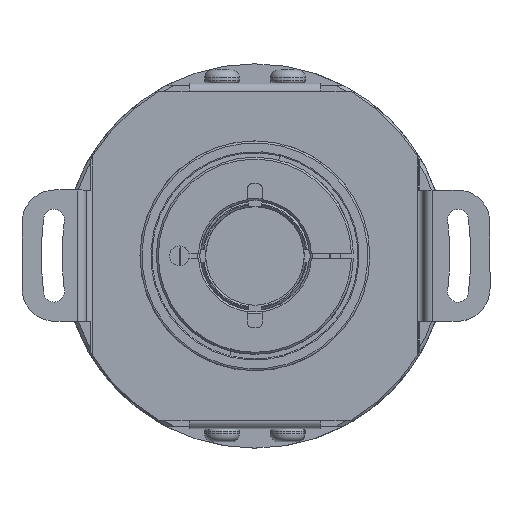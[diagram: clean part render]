
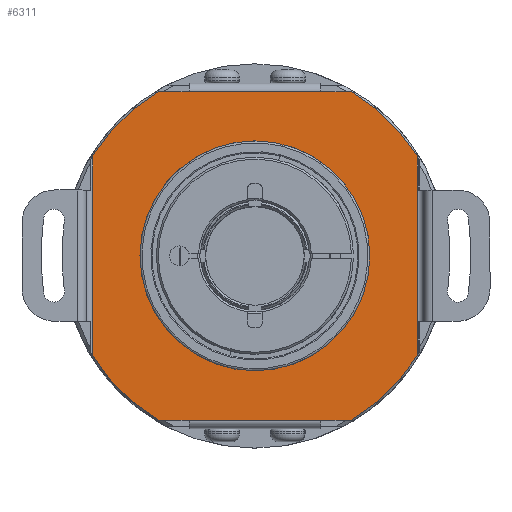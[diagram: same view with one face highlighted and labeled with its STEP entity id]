
A CAD part, top view. The second image highlights one B-rep face of the part: STEP entity #6311.
In plain terms, the highlighted planar face has unit normal (0, 0, 1).
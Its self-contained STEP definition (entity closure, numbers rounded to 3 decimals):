
#5988 = ORIENTED_EDGE ( 'NONE', *, *, #5989, .F. ) ;
#5989 = EDGE_CURVE ( 'NONE', #6000, #6005, #7984, .T. ) ;
#5991 = ORIENTED_EDGE ( 'NONE', *, *, #5996, .F. ) ;
#5994 = EDGE_CURVE ( 'NONE', #6005, #6315, #8034, .T. ) ;
#5996 = EDGE_CURVE ( 'NONE', #6009, #6285, #8026, .T. ) ;
#6000 = VERTEX_POINT ( 'NONE', #8017 ) ;
#6005 = VERTEX_POINT ( 'NONE', #8014 ) ;
#6009 = VERTEX_POINT ( 'NONE', #8012 ) ;
#6010 = ORIENTED_EDGE ( 'NONE', *, *, #6320, .F. ) ;
#6285 = VERTEX_POINT ( 'NONE', #8048 ) ;
#6291 = VERTEX_POINT ( 'NONE', #8045 ) ;
#6309 = EDGE_CURVE ( 'NONE', #6315, #6009, #8085, .T. ) ;
#6311 = ADVANCED_FACE ( 'NONE', ( #8077, #8076 ), #8075, .T. ) ;
#6312 = EDGE_CURVE ( 'NONE', #6318, #6285, #8141, .T. ) ;
#6313 = EDGE_LOOP ( 'NONE', ( #6010, #6314, #5991, #6316, #6319, #5988, #6362, #6357, #6331, #6345, #6352, #6360 ) ) ;
#6314 = ORIENTED_EDGE ( 'NONE', *, *, #6312, .T. ) ;
#6315 = VERTEX_POINT ( 'NONE', #8136 ) ;
#6316 = ORIENTED_EDGE ( 'NONE', *, *, #6309, .F. ) ;
#6318 = VERTEX_POINT ( 'NONE', #8135 ) ;
#6319 = ORIENTED_EDGE ( 'NONE', *, *, #5994, .F. ) ;
#6320 = EDGE_CURVE ( 'NONE', #6318, #6291, #8134, .T. ) ;
#6323 = ORIENTED_EDGE ( 'NONE', *, *, #6611, .F. ) ;
#6325 = EDGE_CURVE ( 'NONE', #6496, #6610, #8126, .T. ) ;
#6330 = ORIENTED_EDGE ( 'NONE', *, *, #6325, .F. ) ;
#6331 = ORIENTED_EDGE ( 'NONE', *, *, #6367, .F. ) ;
#6332 = EDGE_CURVE ( 'NONE', #6359, #6333, #8177, .T. ) ;
#6333 = VERTEX_POINT ( 'NONE', #8172 ) ;
#6334 = VERTEX_POINT ( 'NONE', #8171 ) ;
#6339 = VERTEX_POINT ( 'NONE', #8166 ) ;
#6340 = EDGE_CURVE ( 'NONE', #6291, #6339, #8165, .T. ) ;
#6341 = VERTEX_POINT ( 'NONE', #8160 ) ;
#6344 = EDGE_CURVE ( 'NONE', #6000, #6359, #8153, .T. ) ;
#6345 = ORIENTED_EDGE ( 'NONE', *, *, #6351, .T. ) ;
#6351 = EDGE_CURVE ( 'NONE', #6341, #6334, #8203, .T. ) ;
#6352 = ORIENTED_EDGE ( 'NONE', *, *, #6361, .F. ) ;
#6355 = EDGE_LOOP ( 'NONE', ( #6330, #6323 ) ) ;
#6357 = ORIENTED_EDGE ( 'NONE', *, *, #6332, .T. ) ;
#6359 = VERTEX_POINT ( 'NONE', #8193 ) ;
#6360 = ORIENTED_EDGE ( 'NONE', *, *, #6340, .F. ) ;
#6361 = EDGE_CURVE ( 'NONE', #6339, #6334, #8192, .T. ) ;
#6362 = ORIENTED_EDGE ( 'NONE', *, *, #6344, .T. ) ;
#6367 = EDGE_CURVE ( 'NONE', #6341, #6333, #8183, .T. ) ;
#6496 = VERTEX_POINT ( 'NONE', #8719 ) ;
#6610 = VERTEX_POINT ( 'NONE', #8952 ) ;
#6611 = EDGE_CURVE ( 'NONE', #6610, #6496, #9009, .T. ) ;
#7980 = DIRECTION ( 'NONE',  ( 0., 1., 0. ) ) ;
#7981 = DIRECTION ( 'NONE',  ( 0., 0., -1. ) ) ;
#7982 = CARTESIAN_POINT ( 'NONE',  ( 0., 0., 4.194 ) ) ;
#7983 = AXIS2_PLACEMENT_3D ( 'NONE', #7982, #7981, #7980 ) ;
#7984 = CIRCLE ( 'NONE', #7983, 29. ) ;
#8012 = CARTESIAN_POINT ( 'NONE',  ( 10., 25., 4.194 ) ) ;
#8014 = CARTESIAN_POINT ( 'NONE',  ( -14.697, 25., 4.194 ) ) ;
#8017 = CARTESIAN_POINT ( 'NONE',  ( -24.7, 15.196, 4.194 ) ) ;
#8023 = DIRECTION ( 'NONE',  ( 1., 0., 0. ) ) ;
#8024 = VECTOR ( 'NONE', #8023, 1000. ) ;
#8025 = CARTESIAN_POINT ( 'NONE',  ( 25., 25., 4.194 ) ) ;
#8026 = LINE ( 'NONE', #8025, #8024 ) ;
#8031 = DIRECTION ( 'NONE',  ( 1., 0., 0. ) ) ;
#8032 = VECTOR ( 'NONE', #8031, 1000. ) ;
#8033 = CARTESIAN_POINT ( 'NONE',  ( -10., 25., 4.194 ) ) ;
#8034 = LINE ( 'NONE', #8033, #8032 ) ;
#8045 = CARTESIAN_POINT ( 'NONE',  ( 24.7, -15.196, 4.194 ) ) ;
#8048 = CARTESIAN_POINT ( 'NONE',  ( 14.697, 25., 4.194 ) ) ;
#8075 = PLANE ( 'NONE',  #8146 ) ;
#8076 = FACE_BOUND ( 'NONE', #6355, .T. ) ;
#8077 = FACE_OUTER_BOUND ( 'NONE', #6313, .T. ) ;
#8078 = DIRECTION ( 'NONE',  ( 1., 0., 0. ) ) ;
#8079 = VECTOR ( 'NONE', #8078, 1000. ) ;
#8080 = CARTESIAN_POINT ( 'NONE',  ( 5., 25., 4.194 ) ) ;
#8085 = LINE ( 'NONE', #8080, #8079 ) ;
#8121 = DIRECTION ( 'NONE',  ( 0., 1., 0. ) ) ;
#8123 = DIRECTION ( 'NONE',  ( 0., 0., 1. ) ) ;
#8124 = CARTESIAN_POINT ( 'NONE',  ( 0., 0., 4.194 ) ) ;
#8125 = AXIS2_PLACEMENT_3D ( 'NONE', #8124, #8123, #8121 ) ;
#8126 = CIRCLE ( 'NONE', #8125, 17.5 ) ;
#8131 = DIRECTION ( 'NONE',  ( 0., -1., 0. ) ) ;
#8132 = VECTOR ( 'NONE', #8131, 1000. ) ;
#8133 = CARTESIAN_POINT ( 'NONE',  ( 24.7, 35.2, 4.194 ) ) ;
#8134 = LINE ( 'NONE', #8133, #8132 ) ;
#8135 = CARTESIAN_POINT ( 'NONE',  ( 24.7, 15.196, 4.194 ) ) ;
#8136 = CARTESIAN_POINT ( 'NONE',  ( -10., 25., 4.194 ) ) ;
#8137 = DIRECTION ( 'NONE',  ( 0., 1., 0. ) ) ;
#8138 = DIRECTION ( 'NONE',  ( 0., 0., 1. ) ) ;
#8139 = CARTESIAN_POINT ( 'NONE',  ( 0., 0., 4.194 ) ) ;
#8140 = AXIS2_PLACEMENT_3D ( 'NONE', #8139, #8138, #8137 ) ;
#8141 = CIRCLE ( 'NONE', #8140, 29. ) ;
#8143 = DIRECTION ( 'NONE',  ( 0., 1., 0. ) ) ;
#8144 = DIRECTION ( 'NONE',  ( 0., 0., 1. ) ) ;
#8145 = CARTESIAN_POINT ( 'NONE',  ( 5., 35.2, 4.194 ) ) ;
#8146 = AXIS2_PLACEMENT_3D ( 'NONE', #8145, #8144, #8143 ) ;
#8150 = DIRECTION ( 'NONE',  ( 0., -1., 0. ) ) ;
#8151 = VECTOR ( 'NONE', #8150, 1000. ) ;
#8152 = CARTESIAN_POINT ( 'NONE',  ( -24.7, 35.2, 4.194 ) ) ;
#8153 = LINE ( 'NONE', #8152, #8151 ) ;
#8160 = CARTESIAN_POINT ( 'NONE',  ( -10., -25., 4.194 ) ) ;
#8161 = DIRECTION ( 'NONE',  ( 0., -1., 0. ) ) ;
#8162 = DIRECTION ( 'NONE',  ( 0., 0., -1. ) ) ;
#8163 = CARTESIAN_POINT ( 'NONE',  ( 0., 0., 4.194 ) ) ;
#8164 = AXIS2_PLACEMENT_3D ( 'NONE', #8163, #8162, #8161 ) ;
#8165 = CIRCLE ( 'NONE', #8164, 29. ) ;
#8166 = CARTESIAN_POINT ( 'NONE',  ( 14.697, -25., 4.194 ) ) ;
#8171 = CARTESIAN_POINT ( 'NONE',  ( 10., -25., 4.194 ) ) ;
#8172 = CARTESIAN_POINT ( 'NONE',  ( -14.697, -25., 4.194 ) ) ;
#8173 = DIRECTION ( 'NONE',  ( -1., 0., 0. ) ) ;
#8174 = DIRECTION ( 'NONE',  ( 0., 0., 1. ) ) ;
#8175 = CARTESIAN_POINT ( 'NONE',  ( 0., 0., 4.194 ) ) ;
#8176 = AXIS2_PLACEMENT_3D ( 'NONE', #8175, #8174, #8173 ) ;
#8177 = CIRCLE ( 'NONE', #8176, 29. ) ;
#8180 = DIRECTION ( 'NONE',  ( -1., 0., 0. ) ) ;
#8181 = VECTOR ( 'NONE', #8180, 1000. ) ;
#8182 = CARTESIAN_POINT ( 'NONE',  ( -25., -25., 4.194 ) ) ;
#8183 = LINE ( 'NONE', #8182, #8181 ) ;
#8189 = DIRECTION ( 'NONE',  ( -1., 0., 0. ) ) ;
#8190 = VECTOR ( 'NONE', #8189, 1000. ) ;
#8191 = CARTESIAN_POINT ( 'NONE',  ( 10., -25., 4.194 ) ) ;
#8192 = LINE ( 'NONE', #8191, #8190 ) ;
#8193 = CARTESIAN_POINT ( 'NONE',  ( -24.7, -15.196, 4.194 ) ) ;
#8200 = DIRECTION ( 'NONE',  ( 1., 0., 0. ) ) ;
#8201 = VECTOR ( 'NONE', #8200, 1000. ) ;
#8202 = CARTESIAN_POINT ( 'NONE',  ( 5., -25., 4.194 ) ) ;
#8203 = LINE ( 'NONE', #8202, #8201 ) ;
#8719 = CARTESIAN_POINT ( 'NONE',  ( 0., 17.5, 4.194 ) ) ;
#8952 = CARTESIAN_POINT ( 'NONE',  ( 0., -17.5, 4.194 ) ) ;
#9005 = DIRECTION ( 'NONE',  ( 0., 1., 0. ) ) ;
#9006 = DIRECTION ( 'NONE',  ( 0., 0., 1. ) ) ;
#9007 = CARTESIAN_POINT ( 'NONE',  ( 0., 0., 4.194 ) ) ;
#9008 = AXIS2_PLACEMENT_3D ( 'NONE', #9007, #9006, #9005 ) ;
#9009 = CIRCLE ( 'NONE', #9008, 17.5 ) ;
